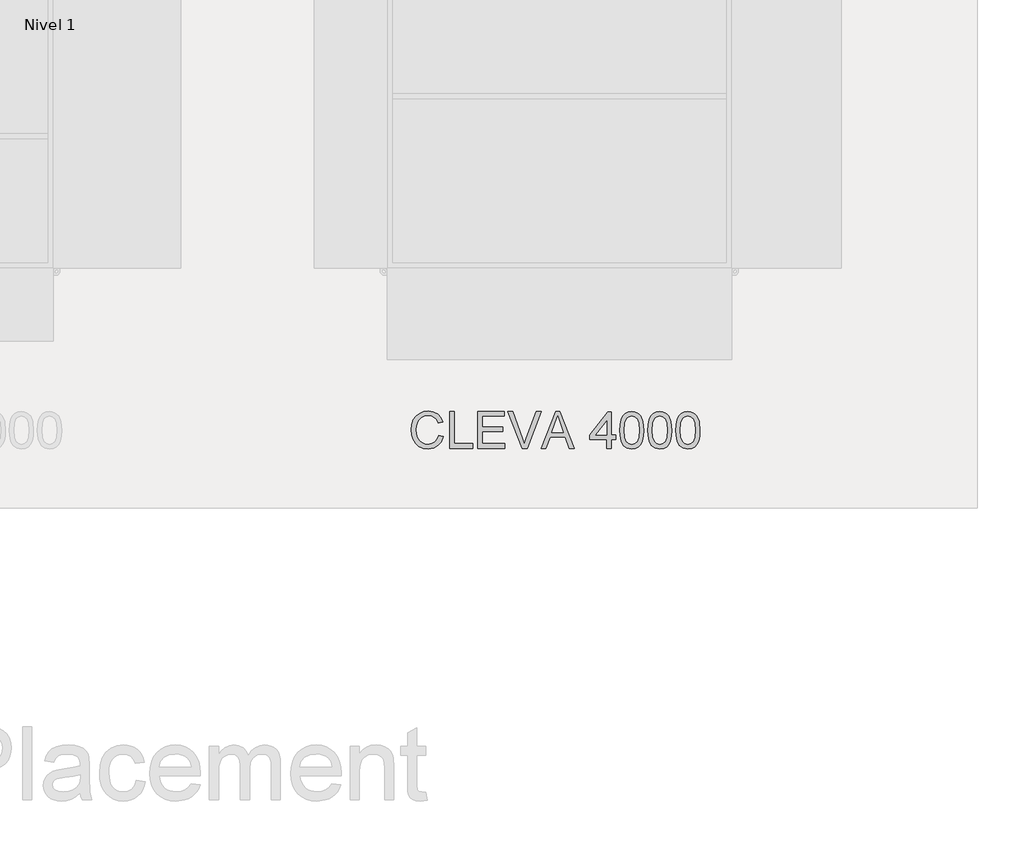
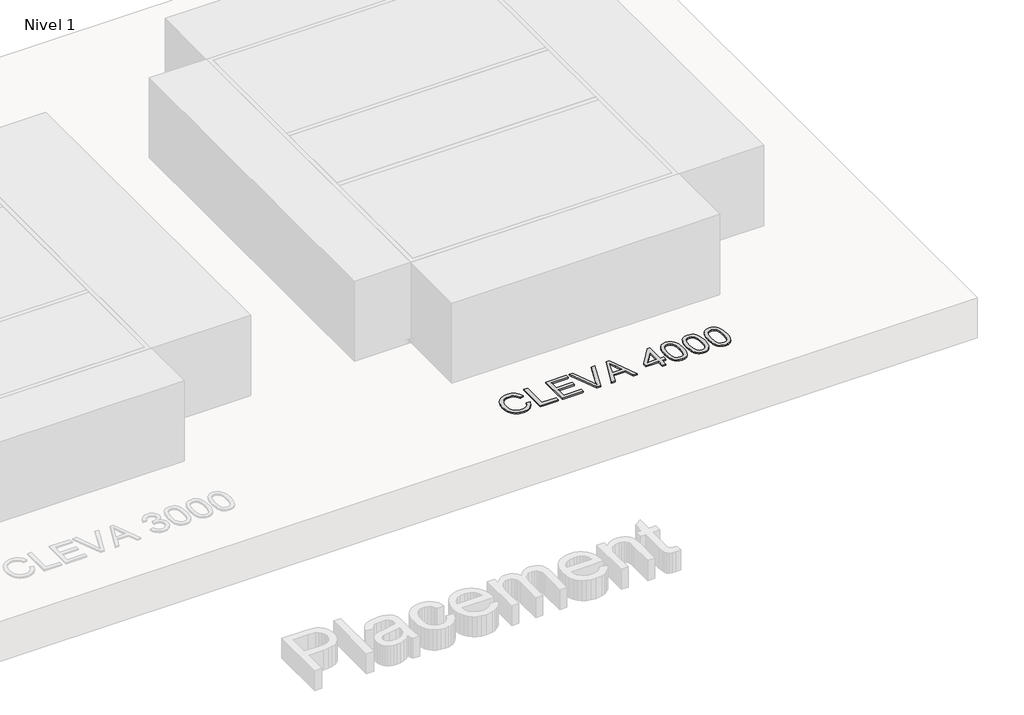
# One storey, part 4 of 4: 1 proxy.
"""IFC4 building model written with IfcOpenShell, lengths in millimetres."""

from ifc_helpers import new_model, si_unit, origin, origin_with_axes, place, context, project, spatial, polyline, outline, extrude, element, save

model = new_model("IFC4")

# Units and contexts
model_context = context("Model", 3, world=origin())
ifc_project = project(units=[si_unit("LENGTHUNIT", "METRE", prefix="MILLI")], contexts=[model_context])

# Site, building, storey
site = spatial("IfcSite", under=ifc_project)
building = spatial("IfcBuilding", under=site)
storey = spatial("IfcBuildingStorey", under=building, Name="Nivel 1", Elevation=0.0)

# Proxy
placement = place(None, origin())
element("IfcBuildingElementProxy", 1, Name="200mm Arial", ObjectType="200mm Arial", at=placement, inside=storey, context=model_context, shape_type="SweptSolid", body=[
    extrude(outline(polyline([(7853.8312052, 6690.6454799), (7878.9452827, 6684.1707568), (7867.3569999, 6654.9057441), (7849.1713666, 6633.5256688), (7825.2835624, 6620.4474638), (7796.5887667, 6616.0880622), (7767.4586441, 6619.3867374), (7744.3249979, 6629.2827631), (7726.5930858, 6645.4327827), (7713.668165, 6667.4934397), (7705.7770962, 6693.4291203), (7703.14674, 6721.204211), (7706.1204528, 6750.4998805), (7715.0415911, 6775.797899), (7729.4441712, 6796.2950575), (7748.8622092, 6811.188147), (7771.8916221, 6820.2564382), (7797.128327, 6823.2792019), (7824.6642943, 6819.36739), (7847.4300585, 6807.6319544), (7864.7143809, 6788.7963962), (7875.806023, 6763.5842168), (7850.6919455, 6757.600003), (7841.9854049, 6775.914395), (7830.0905538, 6788.4775651), (7814.8602392, 6795.7432345), (7796.1473083, 6798.1651244), (7774.5771607, 6795.4795858), (7756.8575113, 6787.4229701), (7743.4114243, 6774.8414059), (7734.6619642, 6758.5810217), (7729.8611042, 6740.1991846), (7728.2608175, 6721.2532619), (7730.1554098, 6698.0521707), (7735.8391866, 6677.9903393), (7745.5267458, 6661.8341883), (7759.4326852, 6650.3501387), (7776.103871, 6643.4891395), (7794.0871692, 6641.2021397), (7815.0503115, 6644.316874), (7832.5185749, 6653.6610766), (7845.7071445, 6669.1366459), (7853.8312052, 6690.6454799)])), origin_with_axes(), (0.0, 0.0, 1.0), 10.0),
    extrude(outline(polyline([(7913.4771393, 6619.2273219), (7913.4771393, 6820.1399422), (7938.5912169, 6820.1399422), (7938.5912169, 6644.3413994), (8039.047527, 6644.3413994), (8039.047527, 6619.2273219), (7913.4771393, 6619.2273219)])), origin_with_axes(), (0.0, 0.0, 1.0), 10.0),
    extrude(outline(polyline([(8067.3008642, 6619.2273219), (8067.3008642, 6820.1399422), (8211.7068101, 6820.1399422), (8211.7068101, 6795.0258647), (8092.4149418, 6795.0258647), (8092.4149418, 6735.3799305), (8205.4282907, 6735.3799305), (8205.4282907, 6710.265853), (8092.4149418, 6710.265853), (8092.4149418, 6644.3413994), (8214.8460698, 6644.3413994), (8214.8460698, 6619.2273219), (8067.3008642, 6619.2273219)])), origin_with_axes(), (0.0, 0.0, 1.0), 10.0),
    extrude(outline(polyline([(8414.336213, 6619.2273219), (8494.534488, 6820.1399422), (8515.9206946, 6820.1399422), (8596.1189696, 6619.2273219), (8569.582415, 6619.2273219), (8546.5775276, 6682.0125157), (8463.8286041, 6682.0125157), (8440.8727676, 6619.2273219), (8414.336213, 6619.2273219)]), holes=[polyline([(8473.0501795, 6707.1265933), (8537.4050032, 6707.1265933), (8519.305209, 6756.5208825), (8505.2275913, 6795.0258647), (8492.7196035, 6760.8373646), (8473.0501795, 6707.1265933)])]), origin_with_axes(), (0.0, 0.0, 1.0), 10.0),
    extrude(outline(polyline([(8311.8688146, 6619.2273219), (8231.9157944, 6820.1399422), (8258.7957055, 6820.1399422), (8312.310273, 6675.3906398), (8323.1505292, 6642.7717696), (8333.8436325, 6675.3906398), (8387.5053529, 6820.1399422), (8414.385264, 6820.1399422), (8337.816758, 6619.2273219), (8311.8688146, 6619.2273219)])), origin_with_axes(), (0.0, 0.0, 1.0), 10.0),
    extrude(outline(polyline([(8773.634295, 6619.2273219), (8773.634295, 6666.3162173), (8682.5957639, 6666.3162173), (8682.5957639, 6691.4302948), (8779.9128144, 6817.0006825), (8798.7483725, 6817.0006825), (8798.7483725, 6691.4302948), (8823.8624501, 6691.4302948), (8823.8624501, 6666.3162173), (8798.7483725, 6666.3162173), (8798.7483725, 6619.2273219), (8773.634295, 6619.2273219)]), holes=[polyline([(8773.634295, 6691.4302948), (8773.634295, 6769.0288703), (8713.4978515, 6691.4302948), (8773.634295, 6691.4302948)])]), origin_with_axes(), (0.0, 0.0, 1.0), 10.0),
    extrude(outline(polyline([(8845.8372679, 6718.0649513), (8847.6828093, 6750.223969), (8853.2194333, 6775.8714754), (8862.3919577, 6795.399878), (8875.1452002, 6809.2015842), (8891.5711313, 6817.4053527), (8911.7617214, 6820.1399422), (8927.2372907, 6818.5212614), (8941.0941792, 6813.6652191), (8952.682462, 6805.7618876), (8961.3522144, 6795.0013392), (8973.1244382, 6765.276474), (8977.686175, 6718.0649513), (8975.8590277, 6686.0898745), (8970.377586, 6660.5036818), (8961.2602439, 6640.9568851), (8948.5253955, 6627.0999966), (8932.0626762, 6618.8410458), (8911.7617214, 6616.0880622), (8885.6666253, 6620.8705281), (8865.8500484, 6635.217926), (8857.094457, 6650.347073), (8850.840463, 6669.1979596), (8845.8372679, 6718.0649513)]), holes=[polyline([(8870.9513454, 6718.1140022), (8873.8944014, 6678.6096073), (8882.7235693, 6655.7457413), (8895.8692193, 6644.8380401), (8911.7617214, 6641.2021397), (8927.6542236, 6644.8503029), (8940.7998736, 6655.7947922), (8949.6290415, 6678.670921), (8952.5720974, 6718.1140022), (8949.7271433, 6756.729349), (8941.1922811, 6779.7710246), (8928.0711566, 6791.2121546), (8911.4674158, 6795.0258647), (8895.7465919, 6791.6658758), (8883.1159768, 6781.5859091), (8873.9925033, 6757.1094937), (8870.9513454, 6718.1140022)])]), origin_with_axes(), (0.0, 0.0, 1.0), 10.0),
    extrude(outline(polyline([(8999.6609928, 6718.0649513), (9001.5065342, 6750.223969), (9007.0431582, 6775.8714754), (9016.2156826, 6795.399878), (9028.9689251, 6809.2015842), (9045.3948562, 6817.4053527), (9065.5854464, 6820.1399422), (9081.0610156, 6818.5212614), (9094.9179041, 6813.6652191), (9106.506187, 6805.7618876), (9115.1759393, 6795.0013392), (9126.9481632, 6765.276474), (9131.5098999, 6718.0649513), (9129.6827527, 6686.0898745), (9124.2013109, 6660.5036818), (9115.0839688, 6640.9568851), (9102.3491204, 6627.0999966), (9085.8864011, 6618.8410458), (9065.5854464, 6616.0880622), (9039.4903502, 6620.8705281), (9019.6737734, 6635.217926), (9010.9181819, 6650.347073), (9004.664188, 6669.1979596), (8999.6609928, 6718.0649513)]), holes=[polyline([(9024.7750704, 6718.1140022), (9027.7181263, 6678.6096073), (9036.5472942, 6655.7457413), (9049.6929442, 6644.8380401), (9065.5854464, 6641.2021397), (9081.4779486, 6644.8503029), (9094.6235985, 6655.7947922), (9103.4527664, 6678.670921), (9106.3958224, 6718.1140022), (9103.5508683, 6756.729349), (9095.016006, 6779.7710246), (9081.8948815, 6791.2121546), (9065.2911408, 6795.0258647), (9049.5703168, 6791.6658758), (9036.9397017, 6781.5859091), (9027.8162282, 6757.1094937), (9024.7750704, 6718.1140022)])]), origin_with_axes(), (0.0, 0.0, 1.0), 10.0),
    extrude(outline(polyline([(9153.4847177, 6718.0649513), (9155.3302591, 6750.223969), (9160.8668831, 6775.8714754), (9170.0394075, 6795.399878), (9182.79265, 6809.2015842), (9199.2185811, 6817.4053527), (9219.4091713, 6820.1399422), (9234.8847405, 6818.5212614), (9248.741629, 6813.6652191), (9260.3299119, 6805.7618876), (9268.9996642, 6795.0013392), (9280.7718881, 6765.276474), (9285.3336248, 6718.0649513), (9283.5064776, 6686.0898745), (9278.0250358, 6660.5036818), (9268.9076937, 6640.9568851), (9256.1728453, 6627.0999966), (9239.710126, 6618.8410458), (9219.4091713, 6616.0880622), (9193.3140751, 6620.8705281), (9173.4974983, 6635.217926), (9164.7419068, 6650.347073), (9158.4879129, 6669.1979596), (9153.4847177, 6718.0649513)]), holes=[polyline([(9178.5987953, 6718.1140022), (9181.5418512, 6678.6096073), (9190.3710191, 6655.7457413), (9203.5166691, 6644.8380401), (9219.4091713, 6641.2021397), (9235.3016735, 6644.8503029), (9248.4473234, 6655.7947922), (9257.2764913, 6678.670921), (9260.2195473, 6718.1140022), (9257.3745932, 6756.729349), (9248.8397309, 6779.7710246), (9235.7186064, 6791.2121546), (9219.1148657, 6795.0258647), (9203.3940418, 6791.6658758), (9190.7634266, 6781.5859091), (9181.6399531, 6757.1094937), (9178.5987953, 6718.1140022)])]), origin_with_axes(), (0.0, 0.0, 1.0), 10.0),
])

save(model, "model.ifc")
